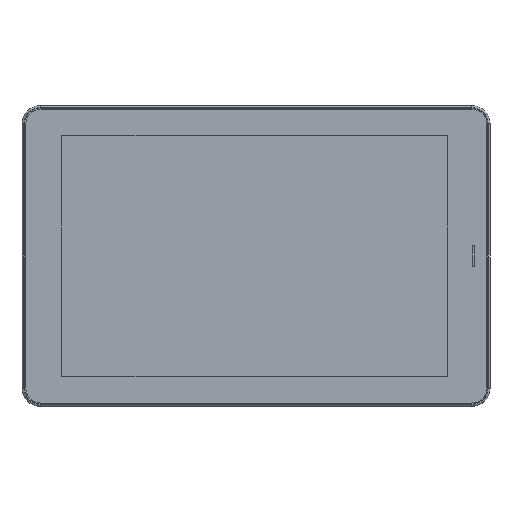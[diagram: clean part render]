
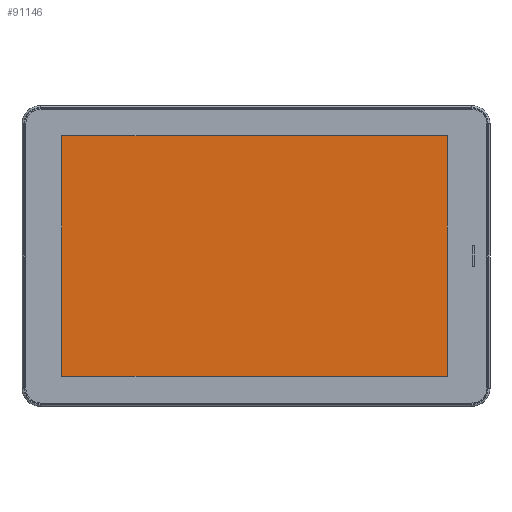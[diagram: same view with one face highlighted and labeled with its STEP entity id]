
A CAD part, front view. The second image highlights one B-rep face of the part: STEP entity #91146.
In plain terms, the highlighted planar face has unit normal (0, -1, 0).
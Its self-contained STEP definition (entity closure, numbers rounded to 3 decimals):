
#532 = FACE_OUTER_BOUND ( 'NONE', #81803, .T. ) ;
#7406 = CARTESIAN_POINT ( 'NONE',  ( 106.449, 1.02, 66.899 ) ) ;
#13677 = AXIS2_PLACEMENT_3D ( 'NONE', #121990, #75838, #19199 ) ;
#17333 = LINE ( 'NONE', #7406, #69016 ) ;
#18354 = CARTESIAN_POINT ( 'NONE',  ( 106.449, 1.02, -67.001 ) ) ;
#19199 = DIRECTION ( 'NONE',  ( -1., 0., 0. ) ) ;
#20666 = VECTOR ( 'NONE', #55381, 1000. ) ;
#27728 = LINE ( 'NONE', #18354, #39611 ) ;
#28474 = EDGE_CURVE ( 'NONE', #65125, #46436, #17333, .T. ) ;
#35202 = VERTEX_POINT ( 'NONE', #63756 ) ;
#37894 = PLANE ( 'NONE',  #13677 ) ;
#39611 = VECTOR ( 'NONE', #72586, 1000. ) ;
#41082 = CARTESIAN_POINT ( 'NONE',  ( 106.449, 1.02, 66.899 ) ) ;
#41598 = EDGE_CURVE ( 'NONE', #65547, #65125, #100911, .T. ) ;
#45975 = CARTESIAN_POINT ( 'NONE',  ( 106.449, 1.02, -67.001 ) ) ;
#46436 = VERTEX_POINT ( 'NONE', #84979 ) ;
#47149 = ORIENTED_EDGE ( 'NONE', *, *, #48908, .T. ) ;
#48908 = EDGE_CURVE ( 'NONE', #46436, #35202, #121338, .T. ) ;
#55381 = DIRECTION ( 'NONE',  ( 0., 0., 1. ) ) ;
#57656 = ORIENTED_EDGE ( 'NONE', *, *, #76559, .T. ) ;
#63756 = CARTESIAN_POINT ( 'NONE',  ( -107.951, 1.02, -67.001 ) ) ;
#65125 = VERTEX_POINT ( 'NONE', #41082 ) ;
#65230 = CARTESIAN_POINT ( 'NONE',  ( -107.951, 1.02, -67.001 ) ) ;
#65547 = VERTEX_POINT ( 'NONE', #45975 ) ;
#69016 = VECTOR ( 'NONE', #100821, 1000. ) ;
#72586 = DIRECTION ( 'NONE',  ( 1., 0., 0. ) ) ;
#75838 = DIRECTION ( 'NONE',  ( 0., -1., 0. ) ) ;
#76559 = EDGE_CURVE ( 'NONE', #35202, #65547, #27728, .T. ) ;
#81803 = EDGE_LOOP ( 'NONE', ( #122366, #88728, #47149, #57656 ) ) ;
#84532 = DIRECTION ( 'NONE',  ( 0., 0., -1. ) ) ;
#84979 = CARTESIAN_POINT ( 'NONE',  ( -107.951, 1.02, 66.899 ) ) ;
#88728 = ORIENTED_EDGE ( 'NONE', *, *, #28474, .T. ) ;
#91146 = ADVANCED_FACE ( 'NONE', ( #532 ), #37894, .T. ) ;
#100821 = DIRECTION ( 'NONE',  ( -1., 0., 0. ) ) ;
#100911 = LINE ( 'NONE', #121455, #20666 ) ;
#101644 = VECTOR ( 'NONE', #84532, 1000. ) ;
#121338 = LINE ( 'NONE', #65230, #101644 ) ;
#121455 = CARTESIAN_POINT ( 'NONE',  ( 106.449, 1.02, -67.001 ) ) ;
#121990 = CARTESIAN_POINT ( 'NONE',  ( 0.199, 1.02, -0.051 ) ) ;
#122366 = ORIENTED_EDGE ( 'NONE', *, *, #41598, .T. ) ;
